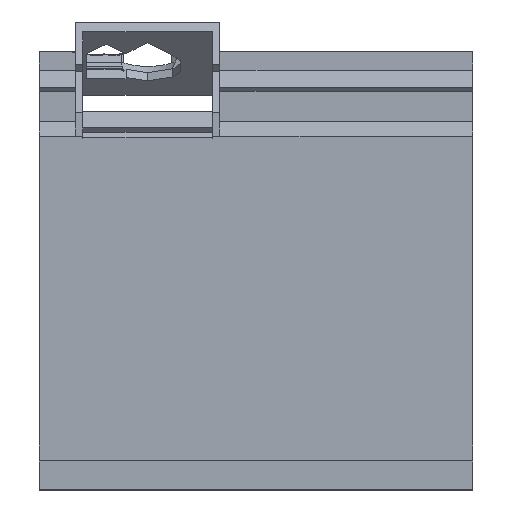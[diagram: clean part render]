
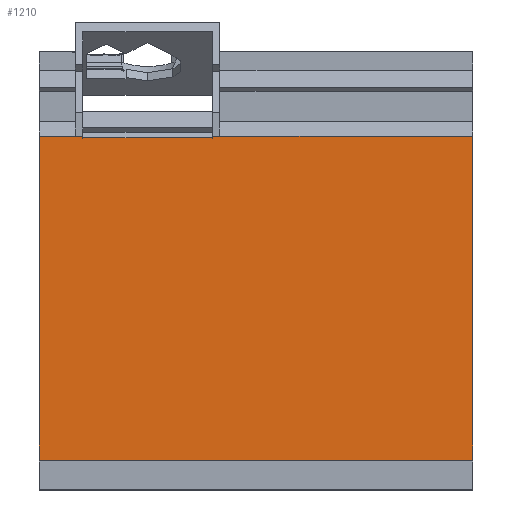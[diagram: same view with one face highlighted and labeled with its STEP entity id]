
A CAD part, top view. The second image highlights one B-rep face of the part: STEP entity #1210.
In plain terms, the highlighted planar face has unit normal (0, 0, 1).
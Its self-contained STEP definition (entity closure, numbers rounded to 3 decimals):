
#32 = PLANE('',#33);
#33 = AXIS2_PLACEMENT_3D('',#34,#35,#36);
#34 = CARTESIAN_POINT('',(-116.,-190.,0.));
#35 = DIRECTION('',(1.,0.,-0.));
#36 = DIRECTION('',(0.,0.,1.));
#782 = VERTEX_POINT('',#783);
#783 = CARTESIAN_POINT('',(-116.,-158.5,30.));
#796 = PLANE('',#797);
#797 = AXIS2_PLACEMENT_3D('',#798,#799,#800);
#798 = CARTESIAN_POINT('',(-174.5,-158.5,-1.));
#799 = DIRECTION('',(0.,1.,0.));
#800 = DIRECTION('',(1.,0.,0.));
#807 = EDGE_CURVE('',#782,#808,#810,.T.);
#808 = VERTEX_POINT('',#809);
#809 = CARTESIAN_POINT('',(-116.,-176.5,30.));
#810 = SURFACE_CURVE('',#811,(#815,#821),.PCURVE_S1.);
#811 = LINE('',#812,#813);
#812 = CARTESIAN_POINT('',(-116.,-96.459,30.));
#813 = VECTOR('',#814,1.);
#814 = DIRECTION('',(0.,-1.,0.));
#815 = PCURVE('',#32,#816);
#816 = DEFINITIONAL_REPRESENTATION('',(#817),#820);
#817 = B_SPLINE_CURVE_WITH_KNOTS('',1,(#818,#819),.UNSPECIFIED.,.F.,.F.,
  (2,2),(62.041,80.041),.PIECEWISE_BEZIER_KNOTS.);
#818 = CARTESIAN_POINT('',(30.,-31.5));
#819 = CARTESIAN_POINT('',(30.,-13.5));
#820 = ( GEOMETRIC_REPRESENTATION_CONTEXT(2) 
PARAMETRIC_REPRESENTATION_CONTEXT() REPRESENTATION_CONTEXT('2D SPACE',''
  ) );
#821 = PCURVE('',#822,#827);
#822 = PLANE('',#823);
#823 = AXIS2_PLACEMENT_3D('',#824,#825,#826);
#824 = CARTESIAN_POINT('',(0.,-2.917,30.));
#825 = DIRECTION('',(0.,0.,1.));
#826 = DIRECTION('',(1.,0.,-0.));
#827 = DEFINITIONAL_REPRESENTATION('',(#828),#831);
#828 = B_SPLINE_CURVE_WITH_KNOTS('',1,(#829,#830),.UNSPECIFIED.,.F.,.F.,
  (2,2),(62.041,80.041),.PIECEWISE_BEZIER_KNOTS.);
#829 = CARTESIAN_POINT('',(-116.,-155.583));
#830 = CARTESIAN_POINT('',(-116.,-173.583));
#831 = ( GEOMETRIC_REPRESENTATION_CONTEXT(2) 
PARAMETRIC_REPRESENTATION_CONTEXT() REPRESENTATION_CONTEXT('2D SPACE',''
  ) );
#848 = PLANE('',#849);
#849 = AXIS2_PLACEMENT_3D('',#850,#851,#852);
#850 = CARTESIAN_POINT('',(-192.5,-176.5,27.));
#851 = DIRECTION('',(0.,1.,0.));
#852 = DIRECTION('',(1.,0.,0.));
#1005 = PLANE('',#1006);
#1006 = AXIS2_PLACEMENT_3D('',#1007,#1008,#1009);
#1007 = CARTESIAN_POINT('',(-92.,-190.,0.));
#1008 = DIRECTION('',(1.,0.,-0.));
#1009 = DIRECTION('',(0.,0.,1.));
#1168 = VERTEX_POINT('',#1169);
#1169 = CARTESIAN_POINT('',(-92.,-176.5,30.));
#1188 = EDGE_CURVE('',#1168,#808,#1189,.T.);
#1189 = SURFACE_CURVE('',#1190,(#1194,#1201),.PCURVE_S1.);
#1190 = LINE('',#1191,#1192);
#1191 = CARTESIAN_POINT('',(-96.25,-176.5,30.));
#1192 = VECTOR('',#1193,1.);
#1193 = DIRECTION('',(-1.,0.,0.));
#1194 = PCURVE('',#848,#1195);
#1195 = DEFINITIONAL_REPRESENTATION('',(#1196),#1200);
#1196 = LINE('',#1197,#1198);
#1197 = CARTESIAN_POINT('',(96.25,-3.));
#1198 = VECTOR('',#1199,1.);
#1199 = DIRECTION('',(-1.,0.));
#1200 = ( GEOMETRIC_REPRESENTATION_CONTEXT(2) 
PARAMETRIC_REPRESENTATION_CONTEXT() REPRESENTATION_CONTEXT('2D SPACE',''
  ) );
#1201 = PCURVE('',#822,#1202);
#1202 = DEFINITIONAL_REPRESENTATION('',(#1203),#1207);
#1203 = LINE('',#1204,#1205);
#1204 = CARTESIAN_POINT('',(-96.25,-173.583));
#1205 = VECTOR('',#1206,1.);
#1206 = DIRECTION('',(-1.,0.));
#1207 = ( GEOMETRIC_REPRESENTATION_CONTEXT(2) 
PARAMETRIC_REPRESENTATION_CONTEXT() REPRESENTATION_CONTEXT('2D SPACE',''
  ) );
#1210 = ADVANCED_FACE('',(#1211),#822,.T.);
#1211 = FACE_BOUND('',#1212,.T.);
#1212 = EDGE_LOOP('',(#1213,#1214,#1235,#1263,#1291,#1319,#1347,#1368));
#1213 = ORIENTED_EDGE('',*,*,#1188,.F.);
#1214 = ORIENTED_EDGE('',*,*,#1215,.F.);
#1215 = EDGE_CURVE('',#1216,#1168,#1218,.T.);
#1216 = VERTEX_POINT('',#1217);
#1217 = CARTESIAN_POINT('',(-92.,-158.5,30.));
#1218 = SURFACE_CURVE('',#1219,(#1223,#1229),.PCURVE_S1.);
#1219 = LINE('',#1220,#1221);
#1220 = CARTESIAN_POINT('',(-92.,-96.459,30.));
#1221 = VECTOR('',#1222,1.);
#1222 = DIRECTION('',(0.,-1.,0.));
#1223 = PCURVE('',#822,#1224);
#1224 = DEFINITIONAL_REPRESENTATION('',(#1225),#1228);
#1225 = B_SPLINE_CURVE_WITH_KNOTS('',1,(#1226,#1227),.UNSPECIFIED.,.F.,
  .F.,(2,2),(62.041,80.041),.PIECEWISE_BEZIER_KNOTS.);
#1226 = CARTESIAN_POINT('',(-92.,-155.583));
#1227 = CARTESIAN_POINT('',(-92.,-173.583));
#1228 = ( GEOMETRIC_REPRESENTATION_CONTEXT(2) 
PARAMETRIC_REPRESENTATION_CONTEXT() REPRESENTATION_CONTEXT('2D SPACE',''
  ) );
#1229 = PCURVE('',#1005,#1230);
#1230 = DEFINITIONAL_REPRESENTATION('',(#1231),#1234);
#1231 = B_SPLINE_CURVE_WITH_KNOTS('',1,(#1232,#1233),.UNSPECIFIED.,.F.,
  .F.,(2,2),(62.041,80.041),.PIECEWISE_BEZIER_KNOTS.);
#1232 = CARTESIAN_POINT('',(30.,-31.5));
#1233 = CARTESIAN_POINT('',(30.,-13.5));
#1234 = ( GEOMETRIC_REPRESENTATION_CONTEXT(2) 
PARAMETRIC_REPRESENTATION_CONTEXT() REPRESENTATION_CONTEXT('2D SPACE',''
  ) );
#1235 = ORIENTED_EDGE('',*,*,#1236,.T.);
#1236 = EDGE_CURVE('',#1216,#1237,#1239,.T.);
#1237 = VERTEX_POINT('',#1238);
#1238 = CARTESIAN_POINT('',(-106.4,-158.5,30.));
#1239 = SURFACE_CURVE('',#1240,(#1244,#1251),.PCURVE_S1.);
#1240 = LINE('',#1241,#1242);
#1241 = CARTESIAN_POINT('',(-87.25,-158.5,30.));
#1242 = VECTOR('',#1243,1.);
#1243 = DIRECTION('',(-1.,0.,0.));
#1244 = PCURVE('',#822,#1245);
#1245 = DEFINITIONAL_REPRESENTATION('',(#1246),#1250);
#1246 = LINE('',#1247,#1248);
#1247 = CARTESIAN_POINT('',(-87.25,-155.583));
#1248 = VECTOR('',#1249,1.);
#1249 = DIRECTION('',(-1.,0.));
#1250 = ( GEOMETRIC_REPRESENTATION_CONTEXT(2) 
PARAMETRIC_REPRESENTATION_CONTEXT() REPRESENTATION_CONTEXT('2D SPACE',''
  ) );
#1251 = PCURVE('',#1252,#1257);
#1252 = PLANE('',#1253);
#1253 = AXIS2_PLACEMENT_3D('',#1254,#1255,#1256);
#1254 = CARTESIAN_POINT('',(-174.5,-158.5,-1.));
#1255 = DIRECTION('',(0.,1.,0.));
#1256 = DIRECTION('',(1.,0.,0.));
#1257 = DEFINITIONAL_REPRESENTATION('',(#1258),#1262);
#1258 = LINE('',#1259,#1260);
#1259 = CARTESIAN_POINT('',(87.25,-31.));
#1260 = VECTOR('',#1261,1.);
#1261 = DIRECTION('',(-1.,0.));
#1262 = ( GEOMETRIC_REPRESENTATION_CONTEXT(2) 
PARAMETRIC_REPRESENTATION_CONTEXT() REPRESENTATION_CONTEXT('2D SPACE',''
  ) );
#1263 = ORIENTED_EDGE('',*,*,#1264,.F.);
#1264 = EDGE_CURVE('',#1265,#1237,#1267,.T.);
#1265 = VERTEX_POINT('',#1266);
#1266 = CARTESIAN_POINT('',(-106.4,-158.597,30.));
#1267 = SURFACE_CURVE('',#1268,(#1272,#1279),.PCURVE_S1.);
#1268 = LINE('',#1269,#1270);
#1269 = CARTESIAN_POINT('',(-106.4,-78.067,30.));
#1270 = VECTOR('',#1271,1.);
#1271 = DIRECTION('',(0.,1.,0.));
#1272 = PCURVE('',#822,#1273);
#1273 = DEFINITIONAL_REPRESENTATION('',(#1274),#1278);
#1274 = LINE('',#1275,#1276);
#1275 = CARTESIAN_POINT('',(-106.4,-75.15));
#1276 = VECTOR('',#1277,1.);
#1277 = DIRECTION('',(0.,1.));
#1278 = ( GEOMETRIC_REPRESENTATION_CONTEXT(2) 
PARAMETRIC_REPRESENTATION_CONTEXT() REPRESENTATION_CONTEXT('2D SPACE',''
  ) );
#1279 = PCURVE('',#1280,#1285);
#1280 = PLANE('',#1281);
#1281 = AXIS2_PLACEMENT_3D('',#1282,#1283,#1284);
#1282 = CARTESIAN_POINT('',(-106.4,-153.217,41.539));
#1283 = DIRECTION('',(1.,0.,0.));
#1284 = DIRECTION('',(0.,0.906,-0.423));
#1285 = DEFINITIONAL_REPRESENTATION('',(#1286),#1290);
#1286 = LINE('',#1287,#1288);
#1287 = CARTESIAN_POINT('',(72.985,21.302));
#1288 = VECTOR('',#1289,1.);
#1289 = DIRECTION('',(0.906,0.423));
#1290 = ( GEOMETRIC_REPRESENTATION_CONTEXT(2) 
PARAMETRIC_REPRESENTATION_CONTEXT() REPRESENTATION_CONTEXT('2D SPACE',''
  ) );
#1291 = ORIENTED_EDGE('',*,*,#1292,.T.);
#1292 = EDGE_CURVE('',#1265,#1293,#1295,.T.);
#1293 = VERTEX_POINT('',#1294);
#1294 = CARTESIAN_POINT('',(-113.6,-158.597,30.));
#1295 = SURFACE_CURVE('',#1296,(#1300,#1307),.PCURVE_S1.);
#1296 = LINE('',#1297,#1298);
#1297 = CARTESIAN_POINT('',(-56.8,-158.597,30.));
#1298 = VECTOR('',#1299,1.);
#1299 = DIRECTION('',(-1.,0.,0.));
#1300 = PCURVE('',#822,#1301);
#1301 = DEFINITIONAL_REPRESENTATION('',(#1302),#1306);
#1302 = LINE('',#1303,#1304);
#1303 = CARTESIAN_POINT('',(-56.8,-155.68));
#1304 = VECTOR('',#1305,1.);
#1305 = DIRECTION('',(-1.,0.));
#1306 = ( GEOMETRIC_REPRESENTATION_CONTEXT(2) 
PARAMETRIC_REPRESENTATION_CONTEXT() REPRESENTATION_CONTEXT('2D SPACE',''
  ) );
#1307 = PCURVE('',#1308,#1313);
#1308 = PLANE('',#1309);
#1309 = AXIS2_PLACEMENT_3D('',#1310,#1311,#1312);
#1310 = CARTESIAN_POINT('',(-113.6,-153.217,41.539));
#1311 = DIRECTION('',(0.,0.906,-0.423));
#1312 = DIRECTION('',(1.,0.,0.));
#1313 = DEFINITIONAL_REPRESENTATION('',(#1314),#1318);
#1314 = LINE('',#1315,#1316);
#1315 = CARTESIAN_POINT('',(56.8,12.731));
#1316 = VECTOR('',#1317,1.);
#1317 = DIRECTION('',(-1.,-0.));
#1318 = ( GEOMETRIC_REPRESENTATION_CONTEXT(2) 
PARAMETRIC_REPRESENTATION_CONTEXT() REPRESENTATION_CONTEXT('2D SPACE',''
  ) );
#1319 = ORIENTED_EDGE('',*,*,#1320,.T.);
#1320 = EDGE_CURVE('',#1293,#1321,#1323,.T.);
#1321 = VERTEX_POINT('',#1322);
#1322 = CARTESIAN_POINT('',(-113.6,-158.5,30.));
#1323 = SURFACE_CURVE('',#1324,(#1328,#1335),.PCURVE_S1.);
#1324 = LINE('',#1325,#1326);
#1325 = CARTESIAN_POINT('',(-113.6,-78.067,30.));
#1326 = VECTOR('',#1327,1.);
#1327 = DIRECTION('',(0.,1.,0.));
#1328 = PCURVE('',#822,#1329);
#1329 = DEFINITIONAL_REPRESENTATION('',(#1330),#1334);
#1330 = LINE('',#1331,#1332);
#1331 = CARTESIAN_POINT('',(-113.6,-75.15));
#1332 = VECTOR('',#1333,1.);
#1333 = DIRECTION('',(0.,1.));
#1334 = ( GEOMETRIC_REPRESENTATION_CONTEXT(2) 
PARAMETRIC_REPRESENTATION_CONTEXT() REPRESENTATION_CONTEXT('2D SPACE',''
  ) );
#1335 = PCURVE('',#1336,#1341);
#1336 = PLANE('',#1337);
#1337 = AXIS2_PLACEMENT_3D('',#1338,#1339,#1340);
#1338 = CARTESIAN_POINT('',(-113.6,-153.217,41.539));
#1339 = DIRECTION('',(1.,0.,0.));
#1340 = DIRECTION('',(0.,0.906,-0.423));
#1341 = DEFINITIONAL_REPRESENTATION('',(#1342),#1346);
#1342 = LINE('',#1343,#1344);
#1343 = CARTESIAN_POINT('',(72.985,21.302));
#1344 = VECTOR('',#1345,1.);
#1345 = DIRECTION('',(0.906,0.423));
#1346 = ( GEOMETRIC_REPRESENTATION_CONTEXT(2) 
PARAMETRIC_REPRESENTATION_CONTEXT() REPRESENTATION_CONTEXT('2D SPACE',''
  ) );
#1347 = ORIENTED_EDGE('',*,*,#1348,.T.);
#1348 = EDGE_CURVE('',#1321,#782,#1349,.T.);
#1349 = SURFACE_CURVE('',#1350,(#1354,#1361),.PCURVE_S1.);
#1350 = LINE('',#1351,#1352);
#1351 = CARTESIAN_POINT('',(-87.25,-158.5,30.));
#1352 = VECTOR('',#1353,1.);
#1353 = DIRECTION('',(-1.,0.,0.));
#1354 = PCURVE('',#822,#1355);
#1355 = DEFINITIONAL_REPRESENTATION('',(#1356),#1360);
#1356 = LINE('',#1357,#1358);
#1357 = CARTESIAN_POINT('',(-87.25,-155.583));
#1358 = VECTOR('',#1359,1.);
#1359 = DIRECTION('',(-1.,0.));
#1360 = ( GEOMETRIC_REPRESENTATION_CONTEXT(2) 
PARAMETRIC_REPRESENTATION_CONTEXT() REPRESENTATION_CONTEXT('2D SPACE',''
  ) );
#1361 = PCURVE('',#796,#1362);
#1362 = DEFINITIONAL_REPRESENTATION('',(#1363),#1367);
#1363 = LINE('',#1364,#1365);
#1364 = CARTESIAN_POINT('',(87.25,-31.));
#1365 = VECTOR('',#1366,1.);
#1366 = DIRECTION('',(-1.,0.));
#1367 = ( GEOMETRIC_REPRESENTATION_CONTEXT(2) 
PARAMETRIC_REPRESENTATION_CONTEXT() REPRESENTATION_CONTEXT('2D SPACE',''
  ) );
#1368 = ORIENTED_EDGE('',*,*,#807,.T.);
